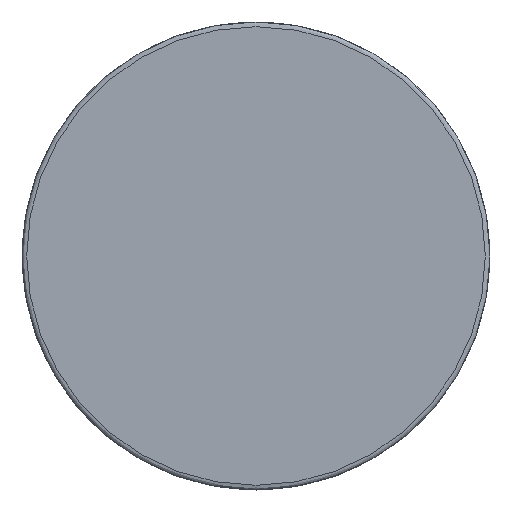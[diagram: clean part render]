
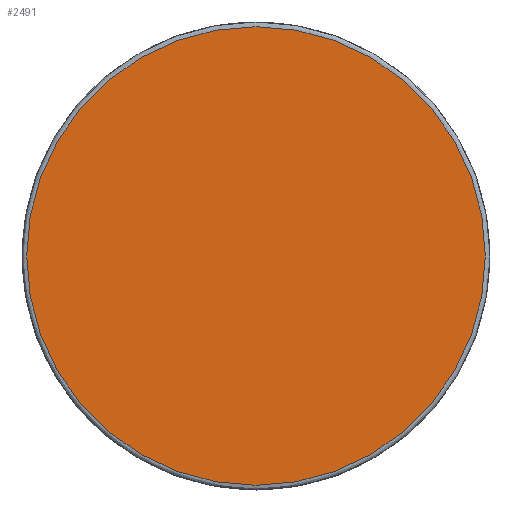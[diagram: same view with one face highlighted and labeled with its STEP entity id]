
A CAD part, left-side view. The second image highlights one B-rep face of the part: STEP entity #2491.
In plain terms, the highlighted planar face has unit normal (-1, 0, 0).
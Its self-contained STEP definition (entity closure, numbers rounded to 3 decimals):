
#2466=CARTESIAN_POINT('',(-528.136,-518.11,30.));
#2467=DIRECTION('',(-1.0,0.0,0.0));
#2468=DIRECTION('',(0.0,1.0,0.0));
#2469=AXIS2_PLACEMENT_3D('',#2466,#2467,#2468);
#2470=PLANE('',#2469);
#2471=CARTESIAN_POINT('',(-528.136,-463.609,0.0));
#2472=VERTEX_POINT('',#2471);
#2473=CARTESIAN_POINT('',(-528.136,-512.609,0.0));
#2474=VERTEX_POINT('',#2473);
#2475=CARTESIAN_POINT('',(-528.136,-488.109,0.0));
#2476=DIRECTION('',(-1.0,0.0,0.0));
#2477=DIRECTION('',(0.0,1.0,0.0));
#2478=AXIS2_PLACEMENT_3D('',#2475,#2476,#2477);
#2479=CIRCLE('',#2478,24.5);
#2480=EDGE_CURVE('',#2472,#2474,#2479,.T.);
#2481=ORIENTED_EDGE('',*,*,#2480,.T.);
#2482=CARTESIAN_POINT('',(-528.136,-488.109,0.0));
#2483=DIRECTION('',(-1.0,0.0,0.0));
#2484=DIRECTION('',(0.0,1.0,0.0));
#2485=AXIS2_PLACEMENT_3D('',#2482,#2483,#2484);
#2486=CIRCLE('',#2485,24.5);
#2487=EDGE_CURVE('',#2474,#2472,#2486,.T.);
#2488=ORIENTED_EDGE('',*,*,#2487,.T.);
#2489=EDGE_LOOP('',(#2481,#2488));
#2490=FACE_OUTER_BOUND('',#2489,.T.);
#2491=ADVANCED_FACE('',(#2490),#2470,.T.);
